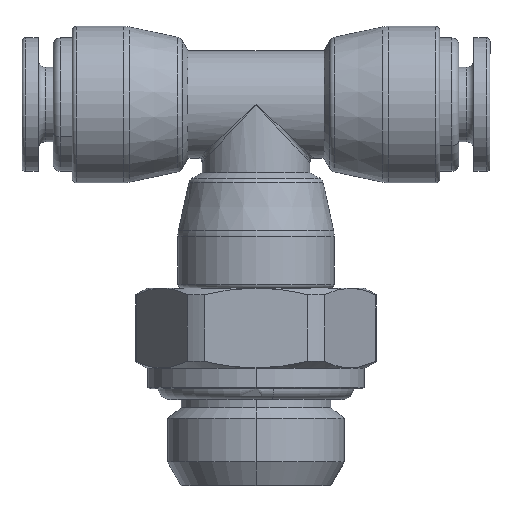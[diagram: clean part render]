
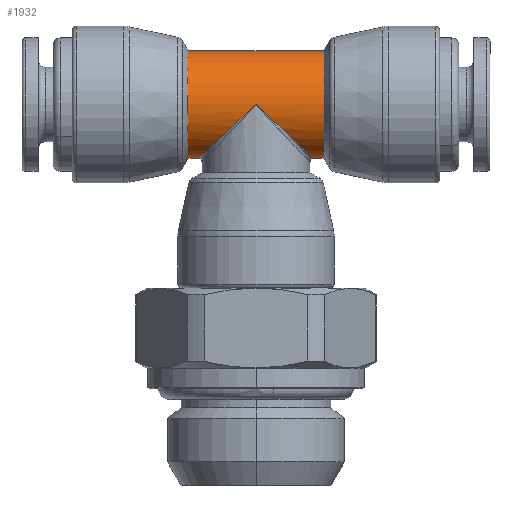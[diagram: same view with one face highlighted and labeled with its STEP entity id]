
A CAD part, top view. The second image highlights one B-rep face of the part: STEP entity #1932.
In plain terms, the highlighted cylindrical face has radius 3.95 mm (diameter 7.9 mm), a partial arc.
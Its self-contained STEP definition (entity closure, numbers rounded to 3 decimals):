
#196 = EDGE_CURVE ( 'NONE', #3947, #7120, #6812, .T. ) ;
#233 = CARTESIAN_POINT ( 'NONE',  ( 4.25, -3.95, 0. ) ) ;
#283 = CARTESIAN_POINT ( 'NONE',  ( -5., 0., 0. ) ) ;
#415 = DIRECTION ( 'NONE',  ( 0., 1., 0. ) ) ;
#447 = DIRECTION ( 'NONE',  ( -1., 0., 0. ) ) ;
#579 = CIRCLE ( 'NONE', #9910, 3.95 ) ;
#746 = VERTEX_POINT ( 'NONE', #3511 ) ;
#770 = AXIS2_PLACEMENT_3D ( 'NONE', #283, #447, #6903 ) ;
#1021 = CARTESIAN_POINT ( 'NONE',  ( 13.5, 3.95, 0. ) ) ;
#1236 = EDGE_CURVE ( 'NONE', #9949, #5663, #579, .T. ) ;
#1533 = CARTESIAN_POINT ( 'NONE',  ( 4.25, -3.95, 0. ) ) ;
#1544 = EDGE_CURVE ( 'NONE', #9368, #3215, #2331, .T. ) ;
#1574 = DIRECTION ( 'NONE',  ( 1., 0., 0. ) ) ;
#1932 = ADVANCED_FACE ( 'NONE', ( #2384 ), #7439, .T. ) ;
#2052 = ORIENTED_EDGE ( 'NONE', *, *, #1544, .T. ) ;
#2215 = ORIENTED_EDGE ( 'NONE', *, *, #4982, .T. ) ;
#2331 = LINE ( 'NONE', #4031, #10607 ) ;
#2384 = FACE_OUTER_BOUND ( 'NONE', #3003, .T. ) ;
#2494 = CARTESIAN_POINT ( 'NONE',  ( -4.25, -3.95, 0. ) ) ;
#3003 = EDGE_LOOP ( 'NONE', ( #4651, #2052, #2215, #4407, #9582, #9695, #7593 ) ) ;
#3215 = VERTEX_POINT ( 'NONE', #3268 ) ;
#3268 = CARTESIAN_POINT ( 'NONE',  ( -4.25, -3.95, 0. ) ) ;
#3511 = CARTESIAN_POINT ( 'NONE',  ( -5., 3.95, 0. ) ) ;
#3947 = VERTEX_POINT ( 'NONE', #9564 ) ;
#4031 = CARTESIAN_POINT ( 'NONE',  ( 13.5, -3.95, 0. ) ) ;
#4058 = CARTESIAN_POINT ( 'NONE',  ( 5., -3.95, 0. ) ) ;
#4407 = ORIENTED_EDGE ( 'NONE', *, *, #196, .T. ) ;
#4613 = CARTESIAN_POINT ( 'NONE',  ( 5., 0., 0. ) ) ;
#4651 = ORIENTED_EDGE ( 'NONE', *, *, #6392, .F. ) ;
#4793 = CARTESIAN_POINT ( 'NONE',  ( 13.5, 0., 0. ) ) ;
#4835 = DIRECTION ( 'NONE',  ( 0., 1., 0. ) ) ;
#4982 = EDGE_CURVE ( 'NONE', #3215, #3947, #5672, .T. ) ;
#5077 = CARTESIAN_POINT ( 'NONE',  ( 0., 0., 3.95 ) ) ;
#5663 = VERTEX_POINT ( 'NONE', #4058 ) ;
#5672 =( BOUNDED_CURVE ( )  B_SPLINE_CURVE ( 3, ( #2494, #10085, #9350, #5077 ),
 .UNSPECIFIED., .F., .T. ) 
 B_SPLINE_CURVE_WITH_KNOTS ( ( 4, 4 ),
 ( 3.142, 4.712 ),
 .UNSPECIFIED. ) 
 CURVE ( )  GEOMETRIC_REPRESENTATION_ITEM ( )  RATIONAL_B_SPLINE_CURVE ( ( 1., 0.805, 0.805, 1. ) ) 
 REPRESENTATION_ITEM ( '' )  );
#6048 = DIRECTION ( 'NONE',  ( 1., 0., 0. ) ) ;
#6070 = CARTESIAN_POINT ( 'NONE',  ( 0., 0., 3.95 ) ) ;
#6392 = EDGE_CURVE ( 'NONE', #9368, #746, #8918, .T. ) ;
#6515 = VECTOR ( 'NONE', #8437, 1000. ) ;
#6812 =( BOUNDED_CURVE ( )  B_SPLINE_CURVE ( 3, ( #6070, #9393, #10235, #233 ),
 .UNSPECIFIED., .F., .F. ) 
 B_SPLINE_CURVE_WITH_KNOTS ( ( 4, 4 ),
 ( 4.712, 6.283 ),
 .UNSPECIFIED. ) 
 CURVE ( )  GEOMETRIC_REPRESENTATION_ITEM ( )  RATIONAL_B_SPLINE_CURVE ( ( 1., 0.805, 0.805, 1. ) ) 
 REPRESENTATION_ITEM ( '' )  );
#6903 = DIRECTION ( 'NONE',  ( 0., -1., 0. ) ) ;
#7120 = VERTEX_POINT ( 'NONE', #1533 ) ;
#7439 = CYLINDRICAL_SURFACE ( 'NONE', #9588, 3.95 ) ;
#7445 = CARTESIAN_POINT ( 'NONE',  ( -5., -3.95, 0. ) ) ;
#7593 = ORIENTED_EDGE ( 'NONE', *, *, #7639, .F. ) ;
#7639 = EDGE_CURVE ( 'NONE', #746, #9949, #10262, .T. ) ;
#7694 = CARTESIAN_POINT ( 'NONE',  ( 5., 3.95, 0. ) ) ;
#7755 = VECTOR ( 'NONE', #6048, 1000. ) ;
#7896 = EDGE_CURVE ( 'NONE', #7120, #5663, #10140, .T. ) ;
#8264 = DIRECTION ( 'NONE',  ( 1., 0., 0. ) ) ;
#8437 = DIRECTION ( 'NONE',  ( 1., 0., 0. ) ) ;
#8711 = DIRECTION ( 'NONE',  ( 1., 0., 0. ) ) ;
#8918 = CIRCLE ( 'NONE', #770, 3.95 ) ;
#9350 = CARTESIAN_POINT ( 'NONE',  ( -2.49, -2.314, 3.95 ) ) ;
#9368 = VERTEX_POINT ( 'NONE', #7445 ) ;
#9393 = CARTESIAN_POINT ( 'NONE',  ( 2.49, -2.314, 3.95 ) ) ;
#9564 = CARTESIAN_POINT ( 'NONE',  ( 0., 0., 3.95 ) ) ;
#9582 = ORIENTED_EDGE ( 'NONE', *, *, #7896, .T. ) ;
#9588 = AXIS2_PLACEMENT_3D ( 'NONE', #4793, #1574, #4835 ) ;
#9695 = ORIENTED_EDGE ( 'NONE', *, *, #1236, .F. ) ;
#9910 = AXIS2_PLACEMENT_3D ( 'NONE', #4613, #8711, #415 ) ;
#9949 = VERTEX_POINT ( 'NONE', #7694 ) ;
#10085 = CARTESIAN_POINT ( 'NONE',  ( -4.25, -3.95, 2.314 ) ) ;
#10140 = LINE ( 'NONE', #10186, #6515 ) ;
#10186 = CARTESIAN_POINT ( 'NONE',  ( 13.5, -3.95, 0. ) ) ;
#10235 = CARTESIAN_POINT ( 'NONE',  ( 4.25, -3.95, 2.314 ) ) ;
#10262 = LINE ( 'NONE', #1021, #7755 ) ;
#10607 = VECTOR ( 'NONE', #8264, 1000. ) ;
